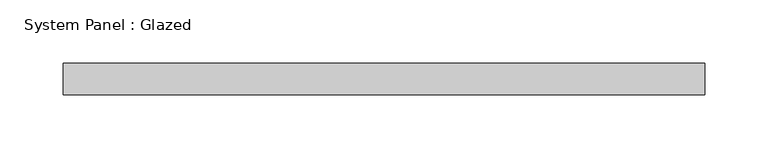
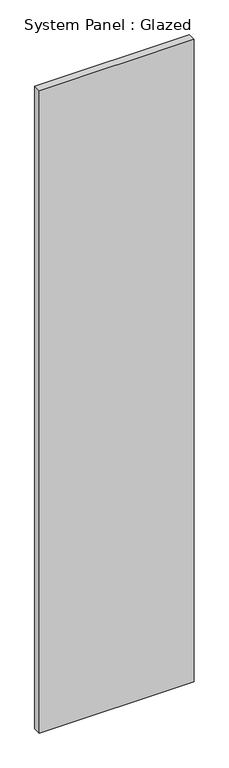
"""IFC4 building model written with IfcOpenShell, lengths in millimetres: plate geometry, System Panel : Glazed."""

from ifc_helpers import new_model, si_unit, origin, origin_with_axes, place, context, project, spatial, polyline, outline, extrude, source, transform, mapped, element, save


def system_panel_glazed_5e1a99da(model_context):
    return source(origin(), model_context, "Body", "SweptSolid", [
        extrude(outline(polyline([(253.5416666, 24.5), (-253.5416666, 24.5), (-253.5416666, 49.5), (253.5416666, 49.5), (253.5416666, 24.5)])), origin_with_axes(), (0.0, 0.0, 1.0), 2225.0),
    ])


if __name__ == "__main__":
    model = new_model("IFC4")
    model_context = context("Model", 3, world=origin())
    ifc_project = project(units=[si_unit("LENGTHUNIT", "METRE", prefix="MILLI")], contexts=[model_context])
    site = spatial("IfcSite", under=ifc_project)
    building = spatial("IfcBuilding", under=site)
    placement = place(None, origin())
    system_panel_glazed_shape = system_panel_glazed_5e1a99da(model_context)
    element("IfcPlate", 1, ObjectType="System Panel : Glazed", at=placement, inside=building, context=model_context, shape_type="MappedRepresentation", body=[
        mapped(system_panel_glazed_shape, transform((0.0, 0.0, 0.0), x_axis=(1.0, 0.0, 0.0), y_axis=(0.0, 1.0, 0.0), z_axis=(0.0, 0.0, 1.0))),
    ])
    save(model, "model.ifc")
